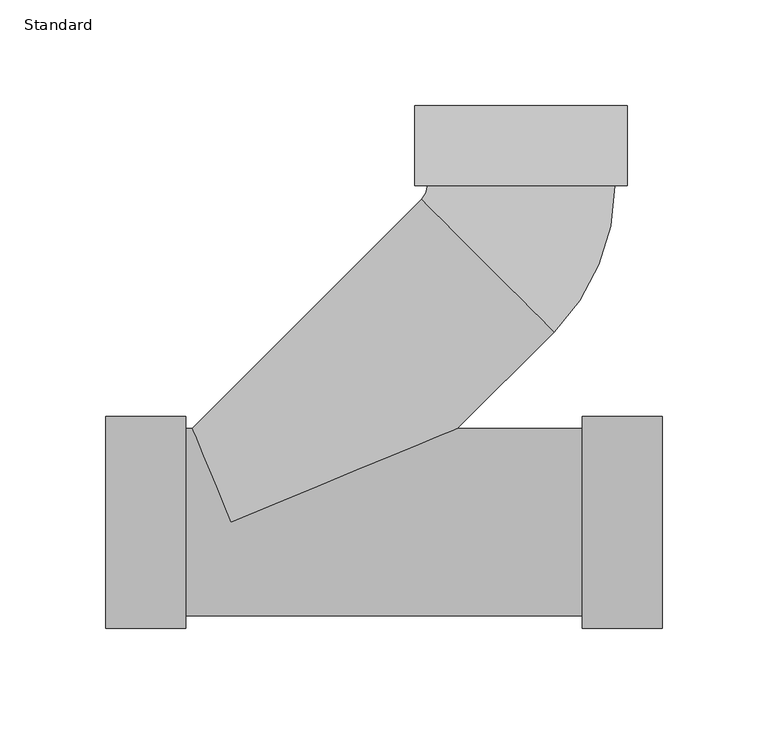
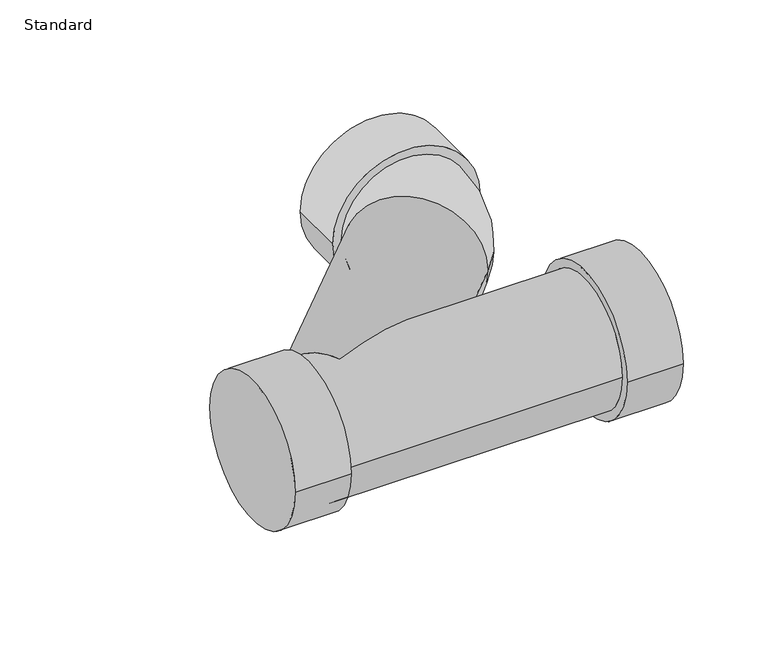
"""IFC4 building model written with IfcOpenShell, lengths in millimetres: pipe fitting geometry, GES Wye Combination with 8th Bend - PVC - Sch 40 - DWV : Standard."""

from ifc_helpers import new_model, si_unit, point, frame, origin, place, context, project, spatial, circle_curve, ellipse_curve, trimmed, source, transform, mapped, element, save
from ifc_brep_helpers import plane_surface, cylinder_surface, revolved_surface, advanced_brep


def standard_97f78eeb(model_context):
    return source(origin(), model_context, "Body", "AdvancedBrep", [
        advanced_brep(
        [(-196.8327255, 50.2666, 0.0), (-196.8327255, -50.2666, 0.0), (-158.7327255, 50.2666, 0.0), (-158.7327255, -50.2666, 0.0), (-158.7327255, 44.45, 0.0), (-158.7327255, -44.45, 0.0), (28.9986745, -44.45, 0.0), (28.9986745, 44.45, 0.0), (-30.0778834, 44.45, 0.0), (-137.3896762, 0.0, 44.45), (-155.8014691, 44.45, 0.0), (-137.3896762, 0.0, -44.45), (28.9986745, 50.2666, 0.0), (28.9986745, -50.2666, 0.0), (67.0986745, 50.2666, 0.0), (67.0986745, -50.2666, 0.0), (-47.0663038, 153.1851653, 0.0), (15.795489, 90.3233724, 0.0), (44.4672743, 159.532587, 0.0), (-44.4327252, 159.542213, 0.0), (-50.2493252, 159.5428428, 0.0), (50.2838743, 159.5319572, 0.0), (-50.2451997, 197.6428426, 0.0), (50.2879997, 197.631957, 0.0)],
        [
            (0, 1, circle_curve(frame((-196.8327255, 0.0, 0.0), z_axis=(-1.0, 0.0, 0.0), x_axis=(0.0, -1.0, 0.0)), 50.2666)),
            (1, 0, circle_curve(frame((-196.8327255, 0.0, 0.0), z_axis=(-1.0, 0.0, 0.0), x_axis=(0.0, -1.0, 0.0)), 50.2666)),
            (2, 3, circle_curve(frame((-158.7327255, 0.0, 0.0), z_axis=(1.0, 0.0, 0.0), x_axis=(0.0, -1.0, 0.0)), 50.2666)),
            (3, 2, circle_curve(frame((-158.7327255, 0.0, 0.0), z_axis=(1.0, 0.0, 0.0), x_axis=(0.0, -1.0, 0.0)), 50.2666)),
            (4, 5, circle_curve(frame((-158.7327255, 0.0, 0.0), z_axis=(-1.0, 0.0, 0.0), x_axis=(0.0, -1.0, 0.0)), 44.45)),
            (5, 4, circle_curve(frame((-158.7327255, 0.0, 0.0), z_axis=(-1.0, 0.0, 0.0), x_axis=(0.0, -1.0, 0.0)), 44.45)),
            (1, 3),
            (2, 0),
            (6, 7, circle_curve(frame((28.9986745, 0.0, 0.0), z_axis=(-1.0, 0.0, 0.0), x_axis=(0.0, -1.0, 0.0)), 44.45)),
            (7, 8),
            (8, 9, ellipse_curve(frame((-137.3896762, 0.0, 0.0), z_axis=(0.3826834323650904, -0.9238795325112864, 0.0), x_axis=(-0.9238795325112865, -0.38268343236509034, 0.0)), 116.1534476, 44.45)),
            (9, 10, ellipse_curve(frame((-137.3896762, 0.0, 0.0), z_axis=(-0.9238795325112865, -0.3826834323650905, 0.0), x_axis=(-0.38268343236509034, 0.9238795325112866, 0.0)), 48.1123333, 44.45)),
            (10, 4),
            (5, 6),
            (10, 11, ellipse_curve(frame((-137.3896762, 0.0, 0.0), z_axis=(-0.9238795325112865, -0.3826834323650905, 0.0), x_axis=(-0.38268343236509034, 0.9238795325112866, 0.0)), 48.1123333, 44.45)),
            (11, 8, ellipse_curve(frame((-137.3896762, 0.0, 0.0), z_axis=(0.3826834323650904, -0.9238795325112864, 0.0), x_axis=(-0.9238795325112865, -0.38268343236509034, 0.0)), 116.1534476, 44.45)),
            (7, 6, circle_curve(frame((28.9986745, 0.0, 0.0), z_axis=(-1.0, 0.0, 0.0), x_axis=(0.0, -1.0, 0.0)), 44.45)),
            (12, 13, circle_curve(frame((28.9986745, 0.0, 0.0), z_axis=(-1.0, 0.0, 0.0), x_axis=(0.0, -1.0, 0.0)), 50.2666)),
            (13, 12, circle_curve(frame((28.9986745, 0.0, 0.0), z_axis=(-1.0, 0.0, 0.0), x_axis=(0.0, -1.0, 0.0)), 50.2666)),
            (14, 15, circle_curve(frame((67.0986745, 0.0, 0.0), z_axis=(1.0, 0.0, 0.0), x_axis=(0.0, -1.0, 0.0)), 50.2666)),
            (15, 14, circle_curve(frame((67.0986745, 0.0, 0.0), z_axis=(1.0, 0.0, 0.0), x_axis=(0.0, -1.0, 0.0)), 50.2666)),
            (13, 15),
            (14, 12),
            (16, 17, circle_curve(frame((-15.6354074, 121.7542688, 0.0), z_axis=(0.70710678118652, 0.7071067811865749, 0.0), x_axis=(-0.7071067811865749, 0.70710678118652, 0.0)), 44.45)),
            (17, 18, circle_curve(frame((-53.4243251, 159.5431866, 0.0), z_axis=(0.0, 0.0, 1.0), x_axis=(0.9999999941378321, -0.00010827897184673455, 0.0)), 97.8916)),
            (18, 19, circle_curve(frame((0.0172745, 159.5374, 0.0), z_axis=(-0.00010827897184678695, -0.9999999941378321, 0.0), x_axis=(-0.9999999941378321, 0.00010827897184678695, 0.0)), 44.45)),
            (19, 16, circle_curve(frame((-53.4243251, 159.5431866, 0.0), z_axis=(0.0, 0.0, -1.0), x_axis=(0.9999999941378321, -0.00010827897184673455, 0.0)), 8.9916)),
            (19, 18, circle_curve(frame((0.0172745, 159.5374, 0.0), z_axis=(-0.00010827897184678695, -0.9999999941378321, 0.0), x_axis=(-0.9999999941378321, 0.00010827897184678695, 0.0)), 44.45)),
            (17, 16, circle_curve(frame((-15.6354074, 121.7542688, 0.0), z_axis=(0.7071067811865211, 0.7071067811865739, 0.0), x_axis=(-0.7071067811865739, 0.7071067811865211, 0.0)), 44.45)),
            (16, 10),
            (8, 17),
            (20, 21, circle_curve(frame((0.0172745, 159.5374, 0.0), z_axis=(-0.00010827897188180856, -0.9999999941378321, 0.0), x_axis=(0.9999999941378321, -0.00010827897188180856, 0.0)), 50.2666)),
            (21, 20, circle_curve(frame((0.0172745, 159.5374, 0.0), z_axis=(-0.00010827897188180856, -0.9999999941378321, 0.0), x_axis=(0.9999999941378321, -0.00010827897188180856, 0.0)), 50.2666)),
            (22, 23, circle_curve(frame((0.0214, 197.6373998, 0.0), z_axis=(0.00010827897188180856, 0.9999999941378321, 0.0), x_axis=(0.9999999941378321, -0.00010827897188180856, 0.0)), 50.2666)),
            (23, 22, circle_curve(frame((0.0214, 197.6373998, 0.0), z_axis=(0.00010827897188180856, 0.9999999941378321, 0.0), x_axis=(0.9999999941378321, -0.00010827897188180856, 0.0)), 50.2666)),
            (21, 23),
            (22, 20),
        ],
        [
            plane_surface(frame((-196.8327255, 0.0, 0.0), z_axis=(-1.0, 0.0, 0.0), x_axis=(0.0, 0.0, 1.0))),
            plane_surface(frame((-158.7327255, 0.0, 0.0), z_axis=(1.0, 0.0, 0.0), x_axis=(0.0, 0.0, 1.0))),
            cylinder_surface(frame((-196.8327255, 0.0, 0.0), z_axis=(-1.0, 0.0, 0.0), x_axis=(0.0, -1.0, 0.0)), 50.2666),
            cylinder_surface(frame((-158.7327255, 0.0, 0.0), z_axis=(-1.0, 0.0, 0.0), x_axis=(0.0, -1.0, 0.0)), 44.45),
            plane_surface(frame((28.9986745, 0.0, 0.0), z_axis=(-1.0, 0.0, 0.0), x_axis=(0.0, 0.0, 1.0))),
            plane_surface(frame((67.0986745, 0.0, 0.0), z_axis=(1.0, 0.0, 0.0), x_axis=(0.0, 0.0, 1.0))),
            cylinder_surface(frame((28.9986745, 0.0, 0.0), z_axis=(-1.0, 0.0, 0.0), x_axis=(0.0, -1.0, 0.0)), 50.2666),
            revolved_surface(trimmed(ellipse_curve(frame((0.0172745, 159.5374, 0.0), z_axis=(-0.00010827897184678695, -0.9999999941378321, 0.0), x_axis=(-0.9999999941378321, 0.00010827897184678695, 0.0)), 44.45, 44.45), [point((44.4672743, 159.532587, 0.0))], [point((-44.4327252, 159.542213, 0.0))], True, "CARTESIAN"), (-53.4243251, 159.5431866, 0.0), (0.0, 0.0, 1.0)),
            revolved_surface(trimmed(ellipse_curve(frame((0.0172745, 159.5374, 0.0), z_axis=(-0.00010827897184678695, -0.9999999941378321, 0.0), x_axis=(-0.9999999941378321, 0.00010827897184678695, 0.0)), 44.45, 44.45), [point((-44.4327252, 159.542213, 0.0))], [point((44.4672743, 159.532587, 0.0))], True, "CARTESIAN"), (-53.4243251, 159.5431866, 0.0), (0.0, 0.0, 1.0)),
            cylinder_surface(frame((-15.6354074, 121.7542688, 0.0), z_axis=(0.7071067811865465, 0.7071067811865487, 0.0), x_axis=(-0.7071067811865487, 0.7071067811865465, 0.0)), 44.45),
            plane_surface(frame((0.0172745, 159.5374, 0.0), z_axis=(-0.00010827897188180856, -0.9999999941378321, 0.0), x_axis=(0.0, 0.0, 1.0))),
            plane_surface(frame((0.0214, 197.6373998, 0.0), z_axis=(0.00010827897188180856, 0.9999999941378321, 0.0), x_axis=(0.0, 0.0, 1.0))),
            cylinder_surface(frame((0.0172745, 159.5374, 0.0), z_axis=(-0.00010827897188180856, -0.9999999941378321, 0.0), x_axis=(0.9999999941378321, -0.00010827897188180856, 0.0)), 50.2666),
        ],
        [
            (0, [[1, 2]]),
            (1, [[3, 4], [5, 6]]),
            (2, [[7, -3, 8, -2]]),
            (2, [[-8, -4, -7, -1]]),
            (3, [[9, 10, 11, 12, 13, -6, 14]]),
            (3, [[-5, -13, 15, 16, -10, 17, -14]]),
            (4, [[18, 19], [-17, -9]]),
            (5, [[20, 21]]),
            (6, [[22, -20, 23, -19]]),
            (6, [[-23, -21, -22, -18]]),
            (7, [[24, 25, 26, 27]]),
            (8, [[28, -25, 29, -27]]),
            (9, [[30, -12, -11, 31, -24]]),
            (9, [[-31, -16, -15, -30, -29]]),
            (10, [[32, 33], [-28, -26]]),
            (11, [[34, 35]]),
            (12, [[36, -34, 37, -33]]),
            (12, [[-37, -35, -36, -32]]),
        ],
    ),
    ])


if __name__ == "__main__":
    model = new_model("IFC4")
    model_context = context("Model", 3, world=origin())
    ifc_project = project(units=[si_unit("LENGTHUNIT", "METRE", prefix="MILLI")], contexts=[model_context])
    site = spatial("IfcSite", under=ifc_project)
    building = spatial("IfcBuilding", under=site)
    placement = place(None, origin())
    standard_shape = standard_97f78eeb(model_context)
    element("IfcPipeFitting", 1, ObjectType="GES Wye Combination with 8th Bend - PVC - Sch 40 - DWV : Standard", at=placement, inside=building, context=model_context, shape_type="MappedRepresentation", body=[
        mapped(standard_shape, transform((0.0, 0.0, 0.0), x_axis=(1.0, 0.0, 0.0), y_axis=(0.0, 1.0, 0.0), z_axis=(0.0, 0.0, 1.0))),
    ])
    save(model, "model.ifc")
